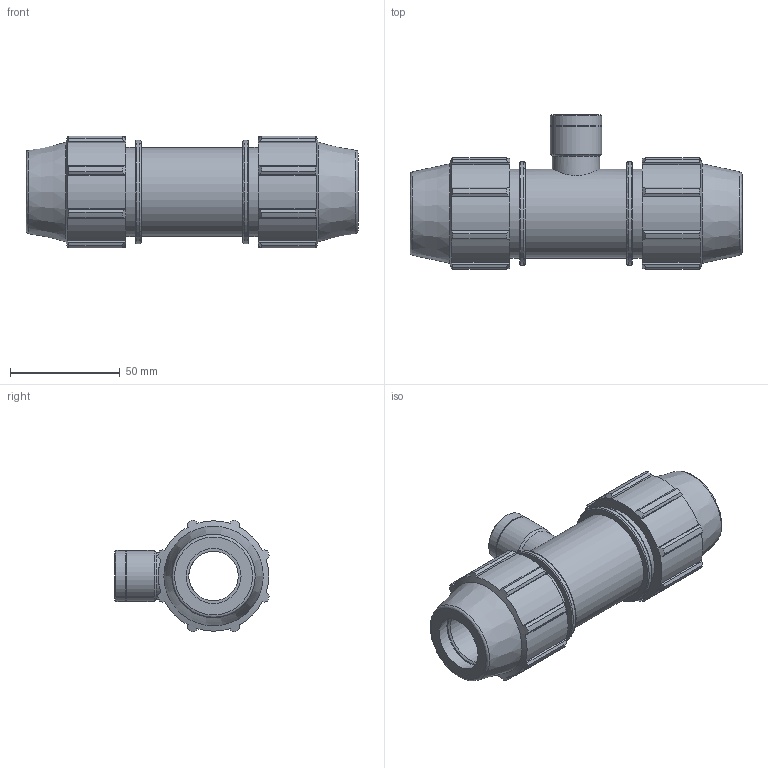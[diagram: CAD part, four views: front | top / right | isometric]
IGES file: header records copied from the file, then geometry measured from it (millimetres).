
Global section: file name: 071400025005_181400025005_0714060250050A.ipt; native system: Autodesk Inventor 2015; preprocessor: unknown; author: KIM; date: 20170606.172144; units: millimetre
Bounding box: 151 x 70.41 x 50.81 mm (x, y, z)
Volume: 169847.7 mm3; surface area: 42663.9 mm2
Topology: 1 solids, 1 shells, 157 faces, 441 edges, 298 vertices
Faces by surface type: plane 79, cylinder 40, cone 23, revolution 15
Full cylindrical faces by diameter (mm): 21.426 x1, 23.289 x2, 40.5 x3, 46.98 x2
